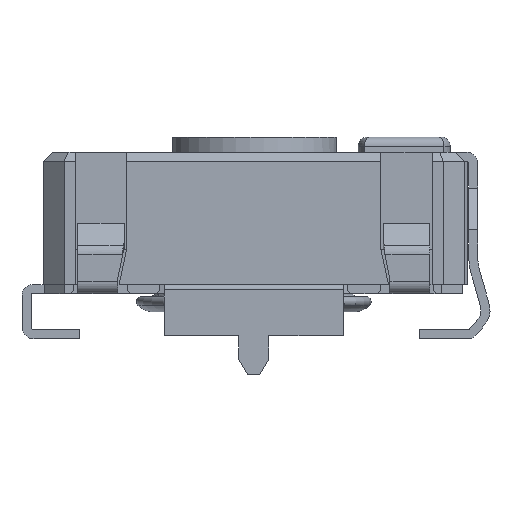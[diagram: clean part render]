
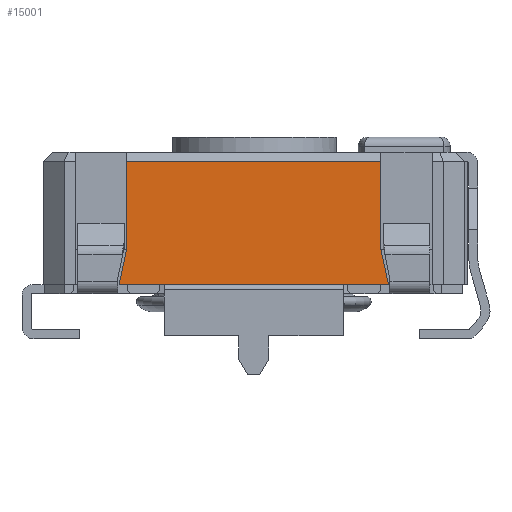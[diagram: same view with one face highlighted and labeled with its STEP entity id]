
A CAD part, left-side view. The second image highlights one B-rep face of the part: STEP entity #15001.
In plain terms, the highlighted planar face has unit normal (-1, 0, 0).
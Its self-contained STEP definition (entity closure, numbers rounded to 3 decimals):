
#987=FACE_OUTER_BOUND('',#1760,.T.);
#1760=EDGE_LOOP('',(#12746,#12747,#12748,#12749,#12750,#12751));
#2412=LINE('',#21868,#4040);
#3013=LINE('',#23692,#4641);
#3017=LINE('',#23699,#4645);
#3369=LINE('',#24452,#4997);
#3374=LINE('',#24460,#5002);
#3375=LINE('',#24462,#5003);
#4040=VECTOR('',#17559,10.);
#4641=VECTOR('',#19074,10.);
#4645=VECTOR('',#19080,10.);
#4997=VECTOR('',#19816,10.);
#5002=VECTOR('',#19823,10.);
#5003=VECTOR('',#19826,10.);
#5992=VERTEX_POINT('',#21865);
#5993=VERTEX_POINT('',#21867);
#6564=VERTEX_POINT('',#23689);
#6565=VERTEX_POINT('',#23691);
#6567=VERTEX_POINT('',#23697);
#6762=VERTEX_POINT('',#24458);
#7577=EDGE_CURVE('',#5992,#5993,#2412,.T.);
#8398=EDGE_CURVE('',#6564,#6565,#3013,.T.);
#8402=EDGE_CURVE('',#6564,#6567,#3017,.T.);
#8777=EDGE_CURVE('',#5993,#6567,#3369,.T.);
#8782=EDGE_CURVE('',#6762,#5992,#3374,.T.);
#8783=EDGE_CURVE('',#6762,#6565,#3375,.T.);
#12746=ORIENTED_EDGE('',*,*,#8398,.F.);
#12747=ORIENTED_EDGE('',*,*,#8402,.T.);
#12748=ORIENTED_EDGE('',*,*,#8777,.F.);
#12749=ORIENTED_EDGE('',*,*,#7577,.F.);
#12750=ORIENTED_EDGE('',*,*,#8782,.F.);
#12751=ORIENTED_EDGE('',*,*,#8783,.T.);
#13539=PLANE('',#16128);
#15001=ADVANCED_FACE('',(#987),#13539,.T.);
#16128=AXIS2_PLACEMENT_3D('',#24496,#19872,#19873);
#17559=DIRECTION('',(0.,1.,0.));
#19074=DIRECTION('',(0.,-1.,0.));
#19080=DIRECTION('',(0.,0.,-1.));
#19816=DIRECTION('',(0.,-0.208,0.978));
#19823=DIRECTION('',(0.,-0.208,-0.978));
#19826=DIRECTION('',(0.,0.,1.));
#19872=DIRECTION('center_axis',(-1.,0.,0.));
#19873=DIRECTION('ref_axis',(0.,0.,1.));
#21865=CARTESIAN_POINT('',(-7.,-4.425,-2.25));
#21867=CARTESIAN_POINT('',(-7.,4.525,-2.25));
#21868=CARTESIAN_POINT('',(-7.,-6.25,-2.25));
#23689=CARTESIAN_POINT('',(-7.,4.275,1.85));
#23691=CARTESIAN_POINT('',(-7.,-4.175,1.85));
#23692=CARTESIAN_POINT('',(-7.,-3.1,1.85));
#23697=CARTESIAN_POINT('',(-7.,4.275,-1.074));
#23699=CARTESIAN_POINT('',(-7.,4.275,-2.25));
#24452=CARTESIAN_POINT('',(-7.,4.525,-2.25));
#24458=CARTESIAN_POINT('',(-7.,-4.175,-1.074));
#24460=CARTESIAN_POINT('',(-7.,-4.175,-1.074));
#24462=CARTESIAN_POINT('',(-7.,-4.175,-2.25));
#24496=CARTESIAN_POINT('Origin',(-7.,-6.25,-2.25));
